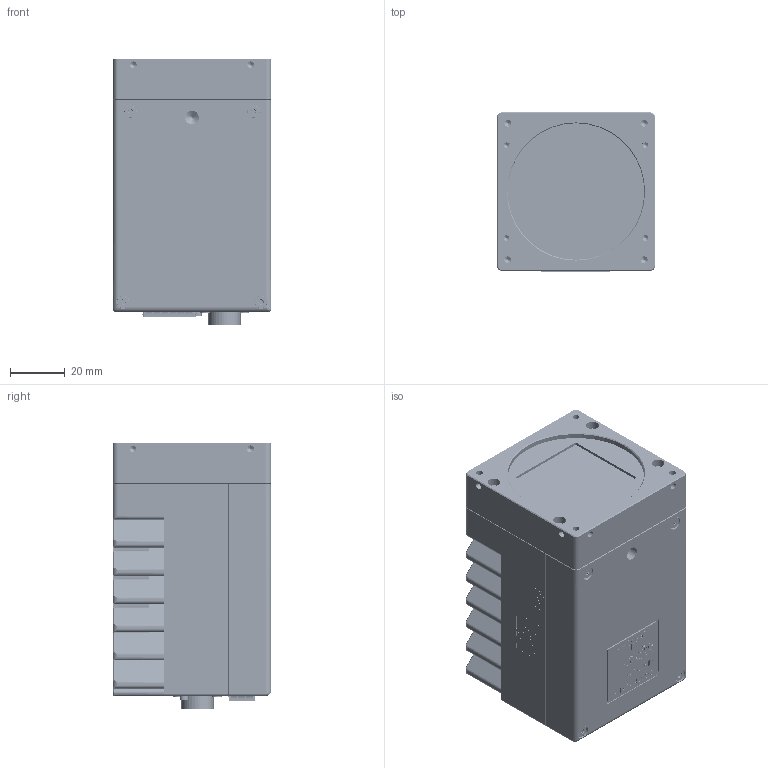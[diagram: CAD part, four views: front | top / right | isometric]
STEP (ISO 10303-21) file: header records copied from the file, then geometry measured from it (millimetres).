
FILE_DESCRIPTION (( 'STEP AP203' ), '1' );
FILE_NAME ('F004310-01001 HR927M100GE-FF.STEP', '2026-04-08T12:57:20', ( '' ), ( '' ), 'SwSTEP 2.0', 'SolidWorks 2025', '' );
FILE_SCHEMA (( 'CONFIG_CONTROL_DESIGN' ));
Length unit declared in the file: millimetre
Products named in the file (20): F002398-02001 BackEnd; B004675-02001 Titan100G IO Piggy_E005470_gefaltet BG; IMX927_Base_Connector; N000230-00000 Senkkopfschraube Torx ISO14581 M2x18 - A2_M2x20; IMX927_Base; E007012-04001 Rückplatte unten QSFP schwarz eloxiert; E007014-02001 Schutzgitter für Lüfter 40 x 40 mm blech gelasert schwarz eloxiert; N000177-00000 Linsenszylinderkopf Kreuzschl DIN 7985 M2,5x4 ZN_DIN 7985 A M 2,5x16; IMX927_Frame; E007105-01001 Frontplatte hr927 Flat-Front Fertigteil eloxiert; B004669-02001 Mainboard QSFP Titan100G_Mainboard_E005468; E002082 Lichtleiter Mentor 1282.2000; E006544-01001 EoSens21 Kunststoffbuchse_d3_mit_Bund; IMX927_Glass; F004310-01001 HR927M100GE-FF; Label 23 x 25 mm; N000339-00000 Zylinderkopfschraube M2,5x18 Torx ISO14579 - A2 Edelstahl_M2x10; E007112-01001 Rückplatte Oberteil HR Titan Fertigteil - eloxiert und Laserbeschriftet; IMX927_Sensor; E002086-00000 M2x3 FK
Assembly tree (28 placements, depth 4):
  F004310-01001 HR927M100GE-FF
    E007105-01001 Frontplatte hr927 Flat-Front Fertigteil eloxiert
    F002398-02001 BackEnd
      E007012-04001 Rückplatte unten QSFP schwarz eloxiert
      E006544-01001 EoSens21 Kunststoffbuchse_d3_mit_Bund  x4
      E007014-02001 Schutzgitter für Lüfter 40 x 40 mm blech gelasert schwarz eloxiert
      B004669-02001 Mainboard QSFP Titan100G_Mainboard_E005468
      E002082 Lichtleiter Mentor 1282.2000
      E002086-00000 M2x3 FK  x2
      B004675-02001 Titan100G IO Piggy_E005470_gefaltet BG
      Label 23 x 25 mm
      N000230-00000 Senkkopfschraube Torx ISO14581 M2x18 - A2_M2x20  x2
      N000339-00000 Zylinderkopfschraube M2,5x18 Torx ISO14579 - A2 Edelstahl_M2x10  x4
    E007112-01001 Rückplatte Oberteil HR Titan Fertigteil - eloxiert und Laserbeschriftet
    IMX927_Sensor
      IMX927_Frame
      IMX927_Base_Connector
        IMX927_Base
      IMX927_Glass
    N000177-00000 Linsenszylinderkopf Kreuzschl DIN 7985 M2,5x4 ZN_DIN 7985 A M 2,5x16  x2
Bounding box: 58 x 58.2 x 97.7 mm (x, y, z)
Volume: 128970 mm3; surface area: 92579.8 mm2
Topology: 38 solids, 38 shells, 6725 faces, 18470 edges, 12178 vertices
Faces by surface type: plane 3410, cylinder 1631, bspline 1478, cone 191, torus 9, sphere 6
Full cylindrical faces by diameter (mm): 0.8 x36, 1 x2, 1.2 x12, 1.25 x3, 1.6 x14, 2 x9, 2.05 x16, 2.1 x2, 2.4 x2, 2.5 x18, 2.6 x4, 2.7 x4, 2.8 x1, 2.85 x1, 3 x8, 3.2 x1, 3.5 x2, 3.8 x2, 4 x2, 4.5 x4, 4.7 x4, 5 x11, 9 x1, 11 x1, 11.8 x1, 14 x1, 14.5 x1, 50 x1
Entity records: 258915 total; most frequent: CARTESIAN_POINT 99112, ORIENTED_EDGE 35398, DIRECTION 27629, EDGE_CURVE 17699, VERTEX_POINT 11800, VECTOR 11229, LINE 11229, AXIS2_PLACEMENT_3D 8200
